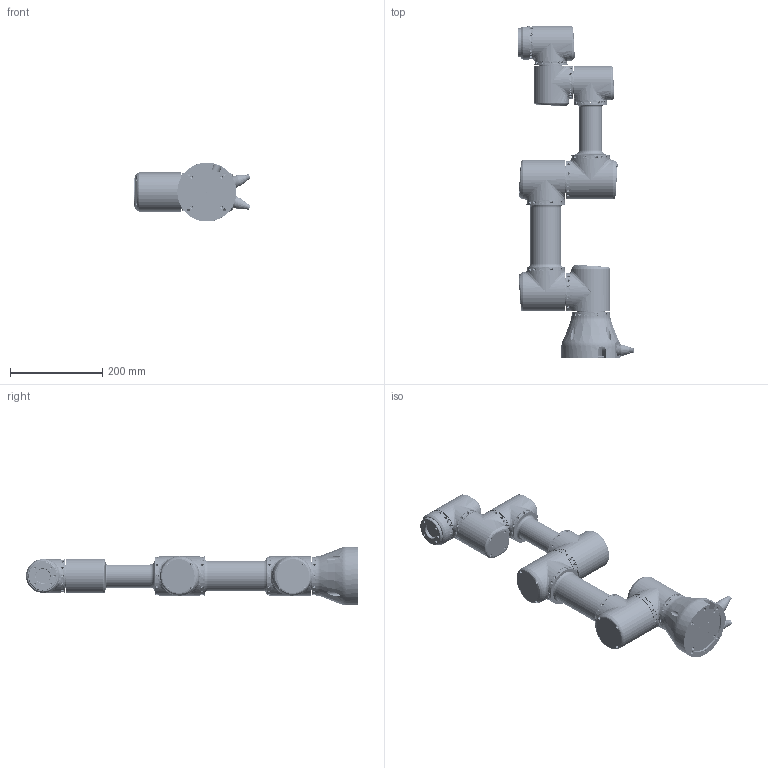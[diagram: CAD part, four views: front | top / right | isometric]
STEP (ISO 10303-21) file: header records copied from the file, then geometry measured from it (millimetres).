
FILE_DESCRIPTION (( 'STEP AP214' ), '1' );
FILE_NAME ('eRobot 3.STEP', '2026-05-21T03:38:20', ( 'Windows User' ), ( 'P R C' ), 'SwSTEP 2.0', 'SolidWorks 2021', '' );
FILE_SCHEMA (( 'AUTOMOTIVE_DESIGN' ));
Length unit declared in the file: millimetre
Products named in the file (15): 2-054-005 3kg三关节连杆; 2-054-001 3kg菁釱; 过线钣金+8mm双面护线圈; 2-054-004 3kg三轴转接1; 瑤脣; eRob70H℅℅T; eRobot 3; 瑤脣鼠芛; 80樑粣; eRob80H℅℅T; 3-054-001 菁釱鍼踢; 2-054-006 3kg﹜5kg藺傷楊擘; 盄擢悵誘杶; 2-054-002 3kg媼壽誹蟀裝; 2-054-003 3kg三轴转接2
Assembly tree (27 placements, depth 2):
  eRobot 3
    2-054-001 3kg菁釱
    3-054-001 菁釱鍼踢
    eRob80H℅℅T  x3
    2-054-002 3kg媼壽誹蟀裝
    2-054-003 3kg三轴转接2
    2-054-004 3kg三轴转接1
    80樑粣
    2-054-005 3kg三关节连杆
    eRob70H℅℅T  x3
    2-054-006 3kg﹜5kg藺傷楊擘
    瑤脣  x2
    瑤脣鼠芛  x2
    盄擢悵誘杶  x6
    过线钣金+8mm双面护线圈  x3
Bounding box: 253.6 x 720.5 x 127.82 mm (x, y, z)
Volume: 3644704 mm3; surface area: 1006060.8 mm2
Topology: 115 solids, 292 shells, 20554 faces, 54331 edges, 35206 vertices
Faces by surface type: plane 13367, cylinder 3584, bspline 2364, cone 872, torus 319, sphere 48
Full cylindrical faces by diameter (mm): 1.25 x9, 1.6 x42, 1.8 x3, 2.5 x255, 3 x84, 3.2 x16, 3.4 x173, 3.5 x16, 4 x18, 4.2 x8, 4.5 x12, 5 x5, 5.5 x92, 5.8 x12, 6 x134, 6.6 x4, 7 x1, 8 x3, 9 x3, 10 x9, 11 x4, 11.6 x2, 16 x6, 17.4 x6, 17.9 x12, 18 x10, 20 x4, 20.5 x2, 21 x3, 22 x3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
Entity records: 367052 total; most frequent: CARTESIAN_POINT 116721, ORIENTED_EDGE 36342, DIRECTION 32238, EDGE_CURVE 18171, LINE 12690, VECTOR 12690, VERTEX_POINT 12254, AXIS2_PLACEMENT_3D 9774
